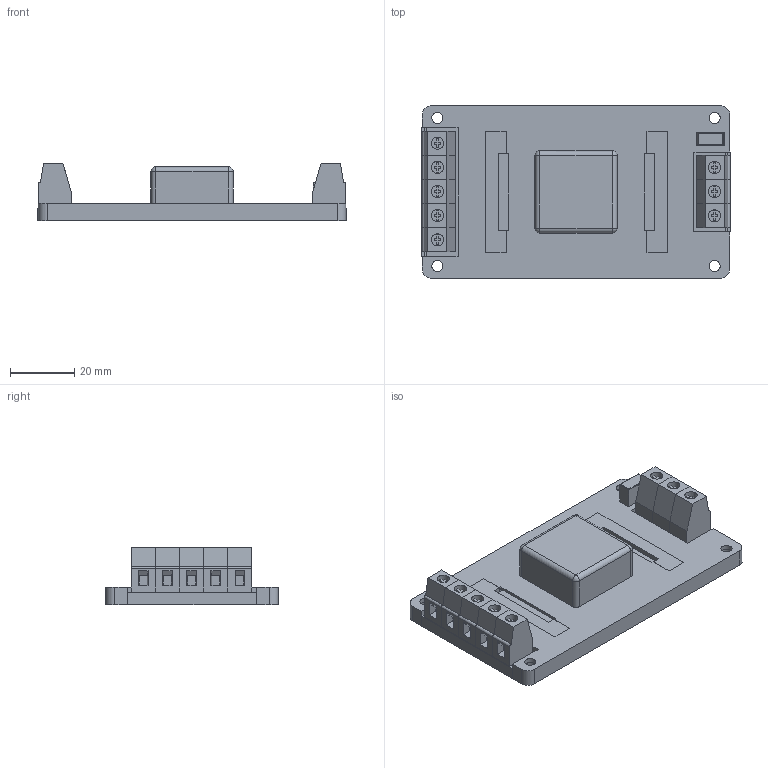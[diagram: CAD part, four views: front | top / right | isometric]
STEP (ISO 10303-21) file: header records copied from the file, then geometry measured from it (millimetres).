
FILE_DESCRIPTION(/* description */ (''),/* implementation_level */ '2;1');
FILE_NAME(/* name */ 'D:\Inventor\3D Files\200430\SW20F - A2.stp',/* time_stamp */ '2020-04-24T16:43:32+08:00',/* author */ ('peter'),/* organization */ (''),/* preprocessor_version */ 'ST-DEVELOPER v15.2',/* originating_system */ 'Autodesk Inventor 2014',/* authorisation */ '');
FILE_SCHEMA (('AUTOMOTIVE_DESIGN { 1 0 10303 214 3 1 1 }'));
Length unit declared in the file: millimetre
Products named in the file (10): PCB; TOP CASE - A2; BOT CASE - A2 _ TRACO; DT-128-01; INLET - A2 - IN; INLET - A2 - OUT; HOLDER - AHC AFC; A2 ASSEMBLY; SW20F for A2_5; SW20F - A2
Bounding box: 95.8 x 53.51 x 18 mm (x, y, z)
Volume: 35226.2 mm3; surface area: 41102.7 mm2
Topology: 14 solids, 14 shells, 615 faces, 1573 edges, 1036 vertices
Faces by surface type: plane 526, cylinder 79, torus 6, sphere 4
Full cylindrical faces by diameter (mm): 1 x6, 1.39 x4, 3.476 x4, 3.5 x8, 3.8 x8, 3.972 x1, 5.5 x4
Entity records: 10078 total; most frequent: CARTESIAN_POINT 1717, DIRECTION 1647, ORIENTED_EDGE 1622, EDGE_CURVE 811, LINE 679, VECTOR 679, VERTEX_POINT 554, AXIS2_PLACEMENT_3D 484
